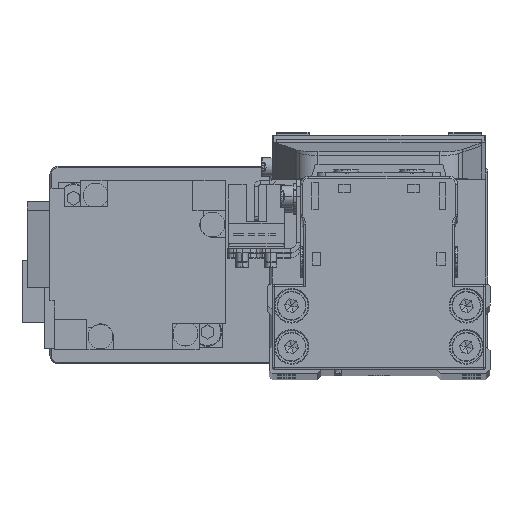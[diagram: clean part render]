
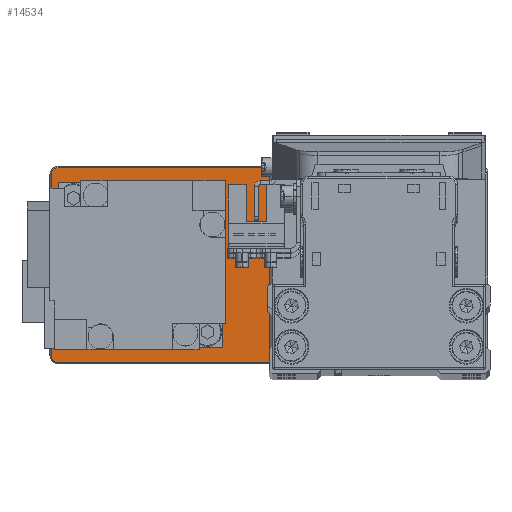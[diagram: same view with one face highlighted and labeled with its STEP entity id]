
A CAD part, top view. The second image highlights one B-rep face of the part: STEP entity #14534.
In plain terms, the highlighted planar face has unit normal (0, 0, 1).
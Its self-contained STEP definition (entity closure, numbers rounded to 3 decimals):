
#357 = VECTOR ( 'NONE', #19804, 1000. ) ;
#363 = DIRECTION ( 'NONE',  ( 0., 0., 1. ) ) ;
#442 = LINE ( 'NONE', #12922, #18816 ) ;
#1209 = VERTEX_POINT ( 'NONE', #31220 ) ;
#1424 = DIRECTION ( 'NONE',  ( 0., 0., 1. ) ) ;
#1485 = ORIENTED_EDGE ( 'NONE', *, *, #19651, .T. ) ;
#2346 = CIRCLE ( 'NONE', #7559, 12.8 ) ;
#2871 = ORIENTED_EDGE ( 'NONE', *, *, #13664, .T. ) ;
#3075 = CIRCLE ( 'NONE', #25976, 1.7 ) ;
#3371 = CARTESIAN_POINT ( 'NONE',  ( -50., 23.7, 5. ) ) ;
#3452 = FACE_OUTER_BOUND ( 'NONE', #21108, .T. ) ;
#5152 = ORIENTED_EDGE ( 'NONE', *, *, #36708, .T. ) ;
#5543 = DIRECTION ( 'NONE',  ( 0., 0., 1. ) ) ;
#7335 = CARTESIAN_POINT ( 'NONE',  ( -51.7, -22., 5. ) ) ;
#7412 = DIRECTION ( 'NONE',  ( 0., 0., -1. ) ) ;
#7559 = AXIS2_PLACEMENT_3D ( 'NONE', #40367, #12297, #24804 ) ;
#8113 = VERTEX_POINT ( 'NONE', #34369 ) ;
#8176 = CARTESIAN_POINT ( 'NONE',  ( 50., 22., 5. ) ) ;
#8990 = VECTOR ( 'NONE', #9671, 1000. ) ;
#9194 = CARTESIAN_POINT ( 'NONE',  ( -28., 0., 5. ) ) ;
#9224 = ORIENTED_EDGE ( 'NONE', *, *, #17364, .T. ) ;
#9388 = EDGE_CURVE ( 'NONE', #15750, #14336, #2346, .T. ) ;
#9460 = CARTESIAN_POINT ( 'NONE',  ( -50., -23.7, 5. ) ) ;
#9671 = DIRECTION ( 'NONE',  ( 0., 1., 0. ) ) ;
#9973 = ORIENTED_EDGE ( 'NONE', *, *, #19606, .T. ) ;
#10064 = DIRECTION ( 'NONE',  ( 1., 0., 0. ) ) ;
#10562 = EDGE_LOOP ( 'NONE', ( #9224, #36828 ) ) ;
#12297 = DIRECTION ( 'NONE',  ( 0., 0., -1. ) ) ;
#12595 = CARTESIAN_POINT ( 'NONE',  ( -28., 0., 5. ) ) ;
#12843 = DIRECTION ( 'NONE',  ( 1., 0., 0. ) ) ;
#12922 = CARTESIAN_POINT ( 'NONE',  ( -50., 23.7, 5. ) ) ;
#13664 = EDGE_CURVE ( 'NONE', #17881, #22381, #15083, .T. ) ;
#13906 = DIRECTION ( 'NONE',  ( 1., 0., 0. ) ) ;
#14084 = ORIENTED_EDGE ( 'NONE', *, *, #39192, .T. ) ;
#14180 = CARTESIAN_POINT ( 'NONE',  ( 17.2, 0., 5. ) ) ;
#14336 = VERTEX_POINT ( 'NONE', #27028 ) ;
#14534 = ADVANCED_FACE ( 'NONE', ( #18980, #31515, #3452 ), #15914, .T. ) ;
#14789 = LINE ( 'NONE', #27320, #26565 ) ;
#15053 = EDGE_CURVE ( 'NONE', #8113, #30311, #32869, .T. ) ;
#15083 = CIRCLE ( 'NONE', #38004, 1.7 ) ;
#15179 = AXIS2_PLACEMENT_3D ( 'NONE', #12595, #25094, #37596 ) ;
#15750 = VERTEX_POINT ( 'NONE', #14180 ) ;
#15914 = PLANE ( 'NONE',  #17100 ) ;
#16821 = AXIS2_PLACEMENT_3D ( 'NONE', #9194, #21690, #34213 ) ;
#17100 = AXIS2_PLACEMENT_3D ( 'NONE', #28444, #363, #12843 ) ;
#17364 = EDGE_CURVE ( 'NONE', #14336, #15750, #24395, .T. ) ;
#17664 = ORIENTED_EDGE ( 'NONE', *, *, #19155, .T. ) ;
#17881 = VERTEX_POINT ( 'NONE', #20788 ) ;
#18004 = DIRECTION ( 'NONE',  ( 1., 0., 0. ) ) ;
#18436 = CARTESIAN_POINT ( 'NONE',  ( 50., -23.7, 5. ) ) ;
#18778 = AXIS2_PLACEMENT_3D ( 'NONE', #33615, #5543, #18004 ) ;
#18816 = VECTOR ( 'NONE', #25432, 1000. ) ;
#18980 = FACE_BOUND ( 'NONE', #10562, .T. ) ;
#19155 = EDGE_CURVE ( 'NONE', #24812, #31863, #3075, .T. ) ;
#19606 = EDGE_CURVE ( 'NONE', #35962, #40387, #36478, .T. ) ;
#19651 = EDGE_CURVE ( 'NONE', #30311, #8113, #34512, .T. ) ;
#19804 = DIRECTION ( 'NONE',  ( 0., -1., 0. ) ) ;
#19873 = DIRECTION ( 'NONE',  ( 1., 0., 0. ) ) ;
#20648 = DIRECTION ( 'NONE',  ( 0., 0., 1. ) ) ;
#20788 = CARTESIAN_POINT ( 'NONE',  ( -51.7, -22., 5. ) ) ;
#21108 = EDGE_LOOP ( 'NONE', ( #37655, #9973, #23256, #35637, #14084, #17664, #5152, #2871 ) ) ;
#21690 = DIRECTION ( 'NONE',  ( 0., 0., -1. ) ) ;
#22381 = VERTEX_POINT ( 'NONE', #9460 ) ;
#23256 = ORIENTED_EDGE ( 'NONE', *, *, #27921, .T. ) ;
#24395 = CIRCLE ( 'NONE', #29656, 12.8 ) ;
#24495 = CIRCLE ( 'NONE', #29757, 1.7 ) ;
#24804 = DIRECTION ( 'NONE',  ( 1., 0., 0. ) ) ;
#24812 = VERTEX_POINT ( 'NONE', #3371 ) ;
#25094 = DIRECTION ( 'NONE',  ( 0., 0., -1. ) ) ;
#25118 = EDGE_CURVE ( 'NONE', #22381, #35962, #14789, .T. ) ;
#25242 = LINE ( 'NONE', #37751, #8990 ) ;
#25432 = DIRECTION ( 'NONE',  ( -1., 0., 0. ) ) ;
#25651 = CARTESIAN_POINT ( 'NONE',  ( -50., -22., 5. ) ) ;
#25976 = AXIS2_PLACEMENT_3D ( 'NONE', #29498, #1424, #13906 ) ;
#26527 = CARTESIAN_POINT ( 'NONE',  ( 51.7, -22., 5. ) ) ;
#26565 = VECTOR ( 'NONE', #39803, 1000. ) ;
#27028 = CARTESIAN_POINT ( 'NONE',  ( 42.8, 0., 5. ) ) ;
#27320 = CARTESIAN_POINT ( 'NONE',  ( 50., -23.7, 5. ) ) ;
#27921 = EDGE_CURVE ( 'NONE', #40387, #39926, #25242, .T. ) ;
#28444 = CARTESIAN_POINT ( 'NONE',  ( 0., 0., 5. ) ) ;
#28486 = CARTESIAN_POINT ( 'NONE',  ( -51.7, 22., 5. ) ) ;
#29498 = CARTESIAN_POINT ( 'NONE',  ( -50., 22., 5. ) ) ;
#29656 = AXIS2_PLACEMENT_3D ( 'NONE', #35481, #7412, #19873 ) ;
#29757 = AXIS2_PLACEMENT_3D ( 'NONE', #8176, #20648, #33183 ) ;
#30311 = VERTEX_POINT ( 'NONE', #38873 ) ;
#31220 = CARTESIAN_POINT ( 'NONE',  ( 50., 23.7, 5. ) ) ;
#31515 = FACE_BOUND ( 'NONE', #38483, .T. ) ;
#31863 = VERTEX_POINT ( 'NONE', #28486 ) ;
#32739 = ORIENTED_EDGE ( 'NONE', *, *, #15053, .T. ) ;
#32740 = CARTESIAN_POINT ( 'NONE',  ( 51.7, 22., 5. ) ) ;
#32869 = CIRCLE ( 'NONE', #15179, 10.3 ) ;
#33183 = DIRECTION ( 'NONE',  ( 1., 0., 0. ) ) ;
#33615 = CARTESIAN_POINT ( 'NONE',  ( 50., -22., 5. ) ) ;
#34213 = DIRECTION ( 'NONE',  ( 1., 0., 0. ) ) ;
#34369 = CARTESIAN_POINT ( 'NONE',  ( -17.7, 0., 5. ) ) ;
#34438 = EDGE_CURVE ( 'NONE', #39926, #1209, #24495, .T. ) ;
#34512 = CIRCLE ( 'NONE', #16821, 10.3 ) ;
#35397 = LINE ( 'NONE', #7335, #357 ) ;
#35481 = CARTESIAN_POINT ( 'NONE',  ( 30., 0., 5. ) ) ;
#35637 = ORIENTED_EDGE ( 'NONE', *, *, #34438, .T. ) ;
#35962 = VERTEX_POINT ( 'NONE', #18436 ) ;
#36478 = CIRCLE ( 'NONE', #18778, 1.7 ) ;
#36708 = EDGE_CURVE ( 'NONE', #31863, #17881, #35397, .T. ) ;
#36828 = ORIENTED_EDGE ( 'NONE', *, *, #9388, .T. ) ;
#37596 = DIRECTION ( 'NONE',  ( 1., 0., 0. ) ) ;
#37655 = ORIENTED_EDGE ( 'NONE', *, *, #25118, .T. ) ;
#37751 = CARTESIAN_POINT ( 'NONE',  ( 51.7, 22., 5. ) ) ;
#38004 = AXIS2_PLACEMENT_3D ( 'NONE', #25651, #38147, #10064 ) ;
#38147 = DIRECTION ( 'NONE',  ( 0., 0., 1. ) ) ;
#38483 = EDGE_LOOP ( 'NONE', ( #32739, #1485 ) ) ;
#38873 = CARTESIAN_POINT ( 'NONE',  ( -38.3, 0., 5. ) ) ;
#39192 = EDGE_CURVE ( 'NONE', #1209, #24812, #442, .T. ) ;
#39803 = DIRECTION ( 'NONE',  ( 1., 0., 0. ) ) ;
#39926 = VERTEX_POINT ( 'NONE', #32740 ) ;
#40367 = CARTESIAN_POINT ( 'NONE',  ( 30., 0., 5. ) ) ;
#40387 = VERTEX_POINT ( 'NONE', #26527 ) ;
